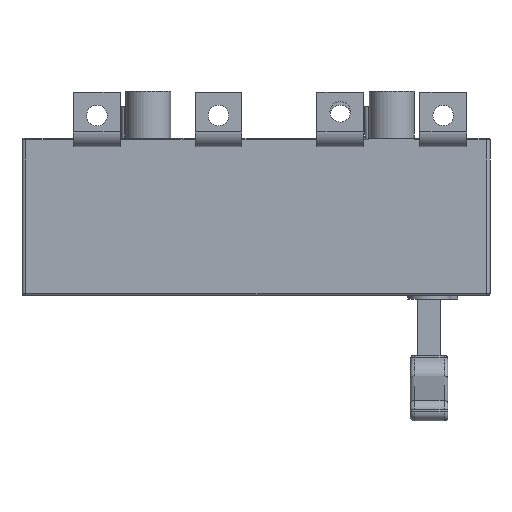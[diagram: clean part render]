
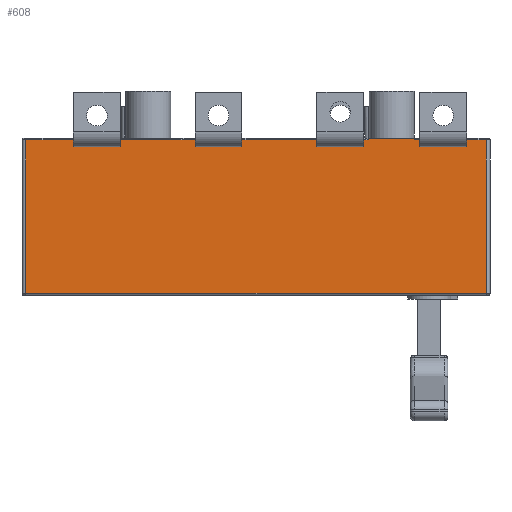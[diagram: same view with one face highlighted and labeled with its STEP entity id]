
A CAD part, front view. The second image highlights one B-rep face of the part: STEP entity #608.
In plain terms, the highlighted planar face has unit normal (0, -1, 0).
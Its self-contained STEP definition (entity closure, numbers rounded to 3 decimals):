
#181=PLANE('',#5373);
#608=ADVANCED_FACE('',(#936),#181,.T.);
#936=FACE_OUTER_BOUND('',#1284,.T.);
#1284=EDGE_LOOP('',(#3368,#3369,#3370,#3371,#3372,#3373,#3374,#3375,#3376,
#3377,#3378,#3379,#3380,#3381,#3382,#3383,#3384,#3385,#3386,#3387,#3388,
#3389,#3390,#3391,#3392,#3393));
#1296=LINE('',#6883,#1689);
#1306=LINE('',#6909,#1699);
#1308=LINE('',#6918,#1701);
#1328=LINE('',#6983,#1721);
#1339=LINE('',#7013,#1732);
#1341=LINE('',#7019,#1734);
#1360=LINE('',#7083,#1753);
#1371=LINE('',#7111,#1764);
#1373=LINE('',#7119,#1766);
#1392=LINE('',#7183,#1785);
#1403=LINE('',#7211,#1796);
#1405=LINE('',#7219,#1798);
#1565=LINE('',#7861,#1958);
#1574=LINE('',#7952,#1967);
#1579=LINE('',#7969,#1972);
#1580=LINE('',#7971,#1973);
#1604=LINE('',#8099,#1997);
#1611=LINE('',#8148,#2004);
#1643=LINE('',#8248,#2036);
#1649=LINE('',#8260,#2042);
#1659=LINE('',#8284,#2052);
#1672=LINE('',#8314,#2065);
#1676=LINE('',#8320,#2069);
#1682=LINE('',#8329,#2075);
#1683=LINE('',#8331,#2076);
#1686=LINE('',#8336,#2079);
#1689=VECTOR('',#5393,1.);
#1699=VECTOR('',#5419,1.);
#1701=VECTOR('',#5427,1.);
#1721=VECTOR('',#5489,1.);
#1732=VECTOR('',#5518,1.);
#1734=VECTOR('',#5524,1.);
#1753=VECTOR('',#5585,1.);
#1764=VECTOR('',#5612,1.);
#1766=VECTOR('',#5620,1.);
#1785=VECTOR('',#5681,1.);
#1796=VECTOR('',#5708,1.);
#1798=VECTOR('',#5716,1.);
#1958=VECTOR('',#6390,1.);
#1967=VECTOR('',#6455,1.);
#1972=VECTOR('',#6478,1.);
#1973=VECTOR('',#6481,1.);
#1997=VECTOR('',#6621,1.);
#2004=VECTOR('',#6642,1.);
#2036=VECTOR('',#6742,1.);
#2042=VECTOR('',#6754,1.);
#2052=VECTOR('',#6780,1.);
#2065=VECTOR('',#6823,1.);
#2069=VECTOR('',#6831,1.);
#2075=VECTOR('',#6843,1.);
#2076=VECTOR('',#6846,1.);
#2079=VECTOR('',#6853,1.);
#3368=ORIENTED_EDGE('',*,*,#3904,.F.);
#3369=ORIENTED_EDGE('',*,*,#4554,.T.);
#3370=ORIENTED_EDGE('',*,*,#4512,.T.);
#3371=ORIENTED_EDGE('',*,*,#4505,.F.);
#3372=ORIENTED_EDGE('',*,*,#4441,.F.);
#3373=ORIENTED_EDGE('',*,*,#4525,.T.);
#3374=ORIENTED_EDGE('',*,*,#4454,.T.);
#3375=ORIENTED_EDGE('',*,*,#4550,.T.);
#3376=ORIENTED_EDGE('',*,*,#3950,.T.);
#3377=ORIENTED_EDGE('',*,*,#3935,.F.);
#3378=ORIENTED_EDGE('',*,*,#3953,.T.);
#3379=ORIENTED_EDGE('',*,*,#4551,.T.);
#3380=ORIENTED_EDGE('',*,*,#3997,.F.);
#3381=ORIENTED_EDGE('',*,*,#3983,.F.);
#3382=ORIENTED_EDGE('',*,*,#4001,.F.);
#3383=ORIENTED_EDGE('',*,*,#4544,.T.);
#3384=ORIENTED_EDGE('',*,*,#4045,.F.);
#3385=ORIENTED_EDGE('',*,*,#4031,.F.);
#3386=ORIENTED_EDGE('',*,*,#4049,.F.);
#3387=ORIENTED_EDGE('',*,*,#4540,.T.);
#3388=ORIENTED_EDGE('',*,*,#4386,.F.);
#3389=ORIENTED_EDGE('',*,*,#4376,.T.);
#3390=ORIENTED_EDGE('',*,*,#4385,.T.);
#3391=ORIENTED_EDGE('',*,*,#4346,.T.);
#3392=ORIENTED_EDGE('',*,*,#3900,.F.);
#3393=ORIENTED_EDGE('',*,*,#3887,.F.);
#3435=VERTEX_POINT('',#6882);
#3436=VERTEX_POINT('',#6884);
#3444=VERTEX_POINT('',#6910);
#3447=VERTEX_POINT('',#6917);
#3470=VERTEX_POINT('',#6981);
#3472=VERTEX_POINT('',#6984);
#3481=VERTEX_POINT('',#7011);
#3483=VERTEX_POINT('',#7018);
#3507=VERTEX_POINT('',#7082);
#3508=VERTEX_POINT('',#7084);
#3517=VERTEX_POINT('',#7112);
#3519=VERTEX_POINT('',#7118);
#3543=VERTEX_POINT('',#7182);
#3544=VERTEX_POINT('',#7184);
#3553=VERTEX_POINT('',#7212);
#3555=VERTEX_POINT('',#7218);
#3752=VERTEX_POINT('',#7842);
#3759=VERTEX_POINT('',#7880);
#3769=VERTEX_POINT('',#7907);
#3773=VERTEX_POINT('',#7949);
#3823=VERTEX_POINT('',#8098);
#3824=VERTEX_POINT('',#8100);
#3831=VERTEX_POINT('',#8130);
#3834=VERTEX_POINT('',#8147);
#3869=VERTEX_POINT('',#8249);
#3872=VERTEX_POINT('',#8261);
#3887=EDGE_CURVE('',#3435,#3436,#1296,.T.);
#3900=EDGE_CURVE('',#3436,#3444,#1306,.T.);
#3904=EDGE_CURVE('',#3447,#3435,#1308,.T.);
#3935=EDGE_CURVE('',#3470,#3472,#1328,.T.);
#3950=EDGE_CURVE('',#3481,#3472,#1339,.T.);
#3953=EDGE_CURVE('',#3470,#3483,#1341,.T.);
#3983=EDGE_CURVE('',#3507,#3508,#1360,.T.);
#3997=EDGE_CURVE('',#3508,#3517,#1371,.T.);
#4001=EDGE_CURVE('',#3519,#3507,#1373,.T.);
#4031=EDGE_CURVE('',#3543,#3544,#1392,.T.);
#4045=EDGE_CURVE('',#3544,#3553,#1403,.T.);
#4049=EDGE_CURVE('',#3555,#3543,#1405,.T.);
#4346=EDGE_CURVE('',#3752,#3444,#1565,.T.);
#4376=EDGE_CURVE('',#3773,#3769,#1574,.T.);
#4385=EDGE_CURVE('',#3769,#3752,#1579,.T.);
#4386=EDGE_CURVE('',#3773,#3759,#1580,.T.);
#4441=EDGE_CURVE('',#3823,#3824,#1604,.T.);
#4454=EDGE_CURVE('',#3831,#3834,#1611,.T.);
#4505=EDGE_CURVE('',#3824,#3869,#1643,.T.);
#4512=EDGE_CURVE('',#3872,#3869,#1649,.T.);
#4525=EDGE_CURVE('',#3823,#3831,#1659,.T.);
#4540=EDGE_CURVE('',#3555,#3759,#1672,.T.);
#4544=EDGE_CURVE('',#3519,#3553,#1676,.T.);
#4550=EDGE_CURVE('',#3834,#3481,#1682,.T.);
#4551=EDGE_CURVE('',#3483,#3517,#1683,.T.);
#4554=EDGE_CURVE('',#3447,#3872,#1686,.T.);
#5373=AXIS2_PLACEMENT_3D('',#8337,#6854,#6855);
#5393=DIRECTION('',(1.,0.,0.));
#5419=DIRECTION('',(0.,0.,1.));
#5427=DIRECTION('',(0.,0.,-1.));
#5489=DIRECTION('',(1.,0.,0.));
#5518=DIRECTION('',(0.,0.,-1.));
#5524=DIRECTION('',(0.,0.,1.));
#5585=DIRECTION('',(1.,0.,0.));
#5612=DIRECTION('',(0.,0.,1.));
#5620=DIRECTION('',(0.,0.,-1.));
#5681=DIRECTION('',(1.,0.,0.));
#5708=DIRECTION('',(0.,0.,1.));
#5716=DIRECTION('',(0.,0.,-1.));
#6390=DIRECTION('',(-1.,0.,0.));
#6455=DIRECTION('',(1.,0.,0.));
#6478=DIRECTION('',(0.,0.,1.));
#6481=DIRECTION('',(0.,0.,1.));
#6621=DIRECTION('',(0.,0.,-1.));
#6642=DIRECTION('',(0.,0.,-1.));
#6742=DIRECTION('',(1.,0.,0.));
#6754=DIRECTION('',(0.,0.,1.));
#6780=DIRECTION('',(-1.,0.,0.));
#6823=DIRECTION('',(-1.,0.,0.));
#6831=DIRECTION('',(-1.,0.,0.));
#6843=DIRECTION('',(-1.,0.,0.));
#6846=DIRECTION('',(-1.,0.,0.));
#6853=DIRECTION('',(-1.,0.,0.));
#6854=DIRECTION('',(0.,-1.,0.));
#6855=DIRECTION('',(1.,0.,0.));
#6882=CARTESIAN_POINT('',(15.,-52.5,-4.118));
#6883=CARTESIAN_POINT('',(15.,-52.5,-4.118));
#6884=CARTESIAN_POINT('',(40.,-52.5,-4.118));
#6909=CARTESIAN_POINT('',(40.,-52.5,4.));
#6910=CARTESIAN_POINT('',(40.,-52.5,-1.));
#6917=CARTESIAN_POINT('',(15.,-52.5,-1.));
#6918=CARTESIAN_POINT('',(15.,-52.5,4.));
#6981=CARTESIAN_POINT('',(-40.,-52.5,-4.118));
#6983=CARTESIAN_POINT('',(-40.,-52.5,-4.118));
#6984=CARTESIAN_POINT('',(-15.,-52.5,-4.118));
#7011=CARTESIAN_POINT('',(-15.,-52.5,-1.));
#7013=CARTESIAN_POINT('',(-15.,-52.5,4.));
#7018=CARTESIAN_POINT('',(-40.,-52.5,-1.));
#7019=CARTESIAN_POINT('',(-40.,-52.5,4.));
#7082=CARTESIAN_POINT('',(-105.,-52.5,-4.118));
#7083=CARTESIAN_POINT('',(-105.,-52.5,-4.118));
#7084=CARTESIAN_POINT('',(-80.,-52.5,-4.118));
#7111=CARTESIAN_POINT('',(-80.,-52.5,4.));
#7112=CARTESIAN_POINT('',(-80.,-52.5,-1.));
#7118=CARTESIAN_POINT('',(-105.,-52.5,-1.));
#7119=CARTESIAN_POINT('',(-105.,-52.5,4.));
#7182=CARTESIAN_POINT('',(-170.,-52.5,-4.118));
#7183=CARTESIAN_POINT('',(-170.,-52.5,-4.118));
#7184=CARTESIAN_POINT('',(-145.,-52.5,-4.118));
#7211=CARTESIAN_POINT('',(-145.,-52.5,4.));
#7212=CARTESIAN_POINT('',(-145.,-52.5,-1.));
#7218=CARTESIAN_POINT('',(-170.,-52.5,-1.));
#7219=CARTESIAN_POINT('',(-170.,-52.5,4.));
#7842=CARTESIAN_POINT('',(50.5,-52.5,-1.));
#7861=CARTESIAN_POINT('',(12.,-52.5,-1.));
#7880=CARTESIAN_POINT('',(-195.5,-52.5,-1.));
#7907=CARTESIAN_POINT('',(50.5,-52.5,-83.));
#7949=CARTESIAN_POINT('',(-195.5,-52.5,-83.));
#7952=CARTESIAN_POINT('',(-12.,-52.5,-83.));
#7969=CARTESIAN_POINT('',(50.5,-52.5,-84.));
#7971=CARTESIAN_POINT('',(-195.5,-52.5,-84.));
#8098=CARTESIAN_POINT('',(-12.,-52.5,17.));
#8099=CARTESIAN_POINT('',(-12.,-52.5,25.));
#8100=CARTESIAN_POINT('',(-12.,-52.5,0.));
#8130=CARTESIAN_POINT('',(-12.5,-52.5,17.));
#8147=CARTESIAN_POINT('',(-12.5,-52.5,-1.));
#8148=CARTESIAN_POINT('',(-12.5,-52.5,4.));
#8248=CARTESIAN_POINT('',(50.5,-52.5,0.));
#8249=CARTESIAN_POINT('',(12.,-52.5,0.));
#8260=CARTESIAN_POINT('',(12.,-52.5,4.));
#8261=CARTESIAN_POINT('',(12.,-52.5,-1.));
#8284=CARTESIAN_POINT('',(7.5,-52.5,17.));
#8314=CARTESIAN_POINT('',(-195.5,-52.5,-1.));
#8320=CARTESIAN_POINT('',(-195.5,-52.5,-1.));
#8329=CARTESIAN_POINT('',(-195.5,-52.5,-1.));
#8331=CARTESIAN_POINT('',(-195.5,-52.5,-1.));
#8336=CARTESIAN_POINT('',(12.,-52.5,-1.));
#8337=CARTESIAN_POINT('',(-12.,-52.5,4.));
